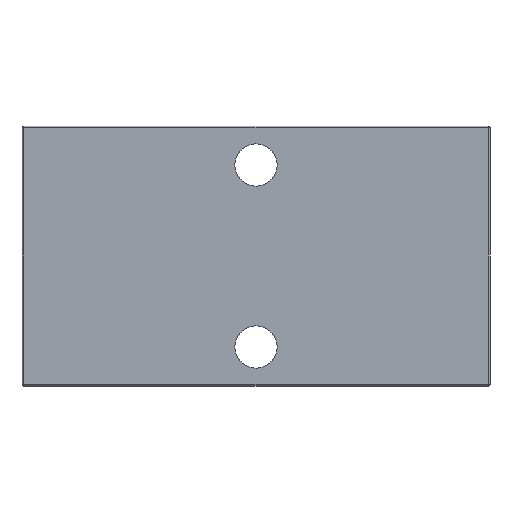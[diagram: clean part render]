
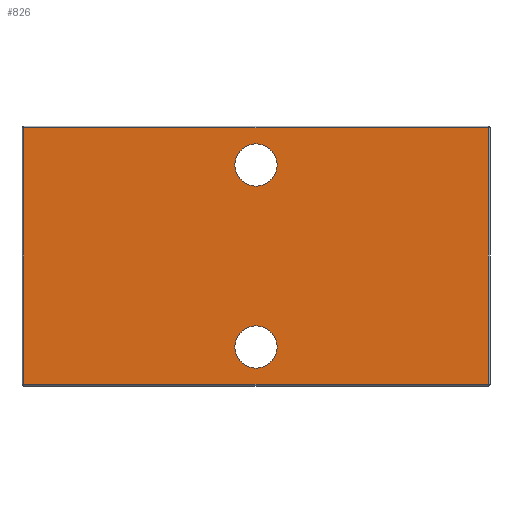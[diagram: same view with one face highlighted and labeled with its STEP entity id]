
A CAD part, front view. The second image highlights one B-rep face of the part: STEP entity #826.
In plain terms, the highlighted planar face has unit normal (0, -1, 0).
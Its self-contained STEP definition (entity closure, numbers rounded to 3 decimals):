
#43=FACE_BOUND('',#263,.T.);
#44=FACE_BOUND('',#264,.T.);
#54=PLANE('',#929);
#71=LINE('',#1350,#120);
#73=LINE('',#1353,#122);
#75=LINE('',#1356,#124);
#77=LINE('',#1359,#126);
#120=VECTOR('',#1087,10.);
#122=VECTOR('',#1091,10.);
#124=VECTOR('',#1095,10.);
#126=VECTOR('',#1099,10.);
#203=FACE_OUTER_BOUND('',#262,.T.);
#262=EDGE_LOOP('',(#651,#652,#653,#654));
#263=EDGE_LOOP('',(#655));
#264=EDGE_LOOP('',(#656));
#326=CIRCLE('',#930,3.25);
#327=CIRCLE('',#931,3.25);
#359=VERTEX_POINT('',#1271);
#362=VERTEX_POINT('',#1278);
#365=VERTEX_POINT('',#1285);
#371=VERTEX_POINT('',#1302);
#390=VERTEX_POINT('',#1383);
#391=VERTEX_POINT('',#1385);
#470=EDGE_CURVE('',#362,#371,#71,.T.);
#472=EDGE_CURVE('',#371,#365,#73,.T.);
#474=EDGE_CURVE('',#365,#359,#75,.T.);
#476=EDGE_CURVE('',#359,#362,#77,.T.);
#486=EDGE_CURVE('',#390,#390,#326,.T.);
#487=EDGE_CURVE('',#391,#391,#327,.T.);
#651=ORIENTED_EDGE('',*,*,#470,.F.);
#652=ORIENTED_EDGE('',*,*,#476,.F.);
#653=ORIENTED_EDGE('',*,*,#474,.F.);
#654=ORIENTED_EDGE('',*,*,#472,.F.);
#655=ORIENTED_EDGE('',*,*,#486,.T.);
#656=ORIENTED_EDGE('',*,*,#487,.T.);
#826=ADVANCED_FACE('',(#203,#43,#44),#54,.F.);
#929=AXIS2_PLACEMENT_3D('',#1382,#1127,#1128);
#930=AXIS2_PLACEMENT_3D('',#1384,#1129,#1130);
#931=AXIS2_PLACEMENT_3D('',#1386,#1131,#1132);
#1087=DIRECTION('',(0.,0.,1.));
#1091=DIRECTION('',(1.,0.,0.));
#1095=DIRECTION('',(0.,0.,-1.));
#1099=DIRECTION('',(-1.,0.,0.));
#1127=DIRECTION('center_axis',(0.,1.,0.));
#1128=DIRECTION('ref_axis',(0.,0.,1.));
#1129=DIRECTION('center_axis',(0.,1.,0.));
#1130=DIRECTION('ref_axis',(1.,0.,0.));
#1131=DIRECTION('center_axis',(0.,1.,0.));
#1132=DIRECTION('ref_axis',(1.,0.,0.));
#1271=CARTESIAN_POINT('',(35.7,-10.,-19.7));
#1278=CARTESIAN_POINT('',(-35.7,-10.,-19.7));
#1285=CARTESIAN_POINT('',(35.7,-10.,19.7));
#1302=CARTESIAN_POINT('',(-35.7,-10.,19.7));
#1350=CARTESIAN_POINT('',(-35.7,-10.,-10.));
#1353=CARTESIAN_POINT('',(-18.,-10.,19.7));
#1356=CARTESIAN_POINT('',(35.7,-10.,10.));
#1359=CARTESIAN_POINT('',(18.,-10.,-19.7));
#1382=CARTESIAN_POINT('Origin',(0.,-10.,0.));
#1383=CARTESIAN_POINT('',(-3.25,-10.,14.));
#1384=CARTESIAN_POINT('Origin',(0.,-10.,14.));
#1385=CARTESIAN_POINT('',(-3.25,-10.,-14.));
#1386=CARTESIAN_POINT('Origin',(0.,-10.,-14.));
